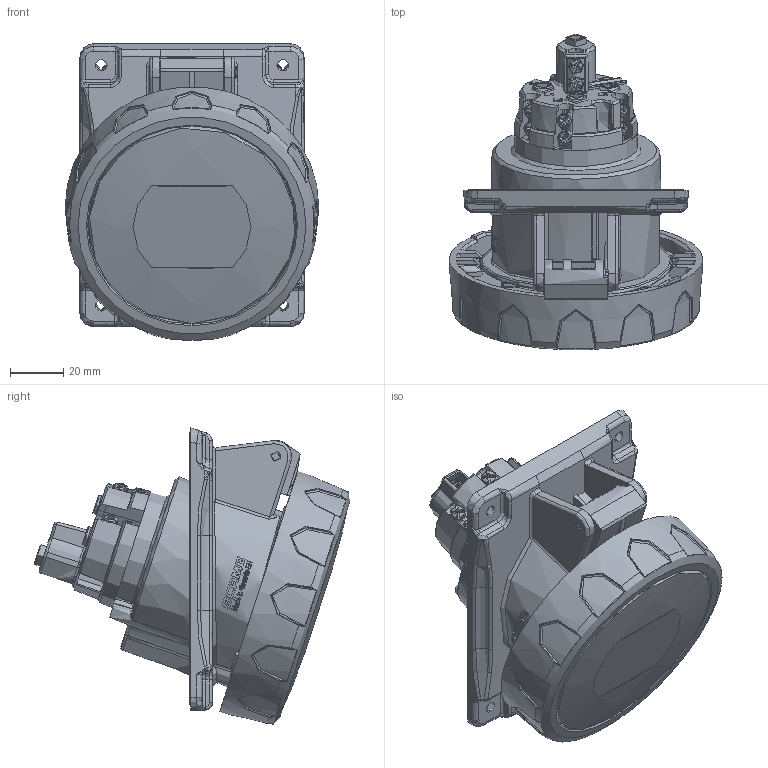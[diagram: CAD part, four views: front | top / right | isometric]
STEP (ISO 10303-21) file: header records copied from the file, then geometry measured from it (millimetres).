
FILE_DESCRIPTION(/* description */ (''),/* implementation_level */ '2;1');
FILE_NAME(/* name */ '4001912.stp',/* time_stamp */ '2021-02-05T08:07:11+01:00',/* author */ (''),/* organization */ (''),/* preprocessor_version */ 'ST-DEVELOPER v16.7',/* originating_system */ 'SIEMENS PLM Software NX 1946',/* authorisation */ '');
FILE_SCHEMA (('AUTOMOTIVE_DESIGN { 1 0 10303 214 3 1 1 1 }'));
Products named in the file (1): BSOM1FAC1A2E1nrp
Bounding box: 95 x 118.19 x 111.14 mm (x, y, z)
Volume: 227463.2 mm3; surface area: 202570.7 mm2
Topology: 24 solids, 24 shells, 6282 faces, 15796 edges, 9516 vertices
Faces by surface type: plane 1883, cylinder 1550, bspline 1524, torus 448, cone 354, extrusion 324, sphere 197, revolution 2
Full cylindrical faces by diameter (mm): 0.2 x1, 0.4 x1, 1 x3, 1.1 x4, 2.25 x2, 2.4 x4, 3 x10, 3.2 x2, 3.5 x8, 4 x5, 4.3 x2, 4.503 x1, 4.7 x4, 5 x1, 5.14 x1, 5.7 x4, 5.8 x8, 6.1 x3, 8 x3, 8.1 x1, 10 x1, 46 x1, 53.2 x1, 57.2 x1, 58 x1, 77.2 x1, 86.4 x1
Entity records: 259396 total; most frequent: CARTESIAN_POINT 122455, ORIENTED_EDGE 30152, DIRECTION 25211, EDGE_CURVE 15076, AXIS2_PLACEMENT_3D 9575, VERTEX_POINT 9354, EDGE_LOOP 6880, ADVANCED_FACE 6280
